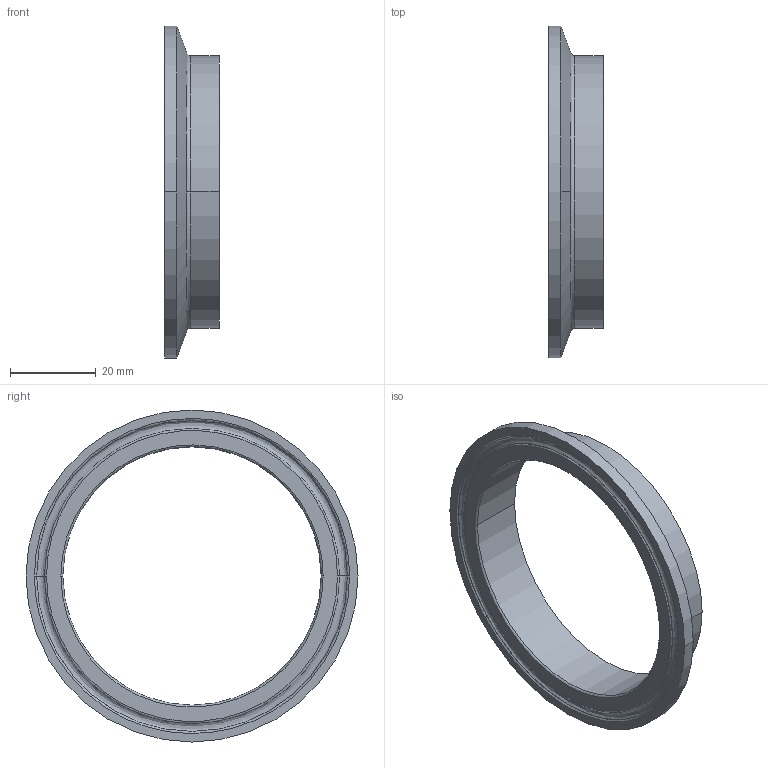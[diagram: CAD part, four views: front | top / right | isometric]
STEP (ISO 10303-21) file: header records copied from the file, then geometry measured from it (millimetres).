
FILE_DESCRIPTION (( 'STEP AP214' ), '1' );
FILE_NAME ('TEG2CS6L2.5.STEP', '2016-05-22T12:01:38', ( 'eran' ), ( '' ), 'SwSTEP 2.0', 'SolidWorks 2016', '' );
FILE_SCHEMA (( 'AUTOMOTIVE_DESIGN' ));
Length unit declared in the file: millimetre
Products named in the file (1): TEG2CS6L2.5
Bounding box: 12.7 x 77.39 x 77.39 mm (x, y, z)
Volume: 10047.2 mm3; surface area: 8429.5 mm2
Topology: 1 solids, 1 shells, 25 faces, 62 edges, 40 vertices
Faces by surface type: bspline 10, cylinder 6, cone 6, plane 3
Entity records: 1471 total; most frequent: CARTESIAN_POINT 846, DIRECTION 132, ORIENTED_EDGE 124, EDGE_CURVE 62, AXIS2_PLACEMENT_3D 60, CIRCLE 44, VERTEX_POINT 40, EDGE_LOOP 28
